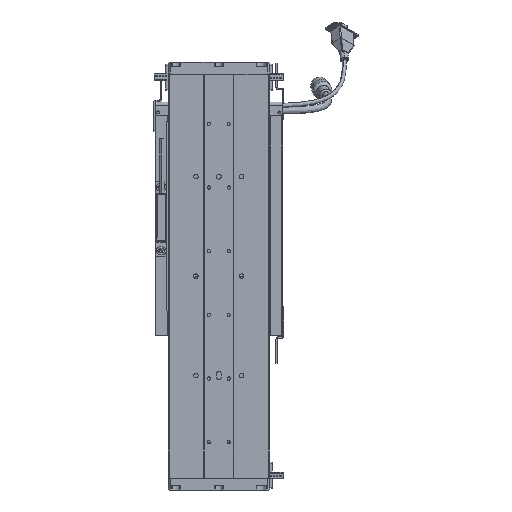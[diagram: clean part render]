
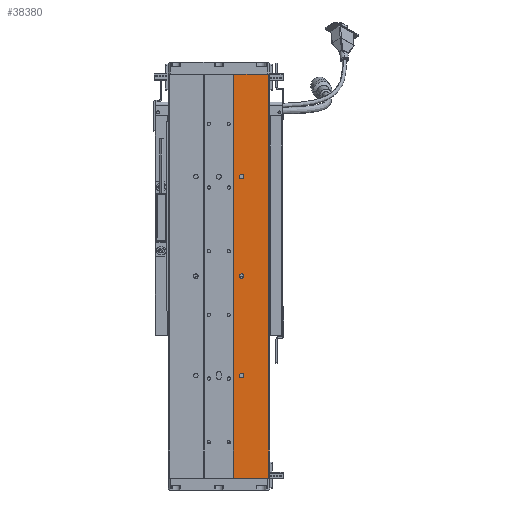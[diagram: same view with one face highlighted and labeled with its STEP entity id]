
A CAD part, front view. The second image highlights one B-rep face of the part: STEP entity #38380.
In plain terms, the highlighted planar face has unit normal (0, -1, 0).
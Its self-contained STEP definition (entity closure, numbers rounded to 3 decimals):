
#855 = CIRCLE ( 'NONE', #46198, 2.25 ) ;
#1206 = ORIENTED_EDGE ( 'NONE', *, *, #26946, .T. ) ;
#1587 = EDGE_CURVE ( 'NONE', #55068, #28080, #17852, .T. ) ;
#2419 = EDGE_LOOP ( 'NONE', ( #20018, #47577, #29631, #10868 ) ) ;
#3554 = ORIENTED_EDGE ( 'NONE', *, *, #40945, .T. ) ;
#3661 = EDGE_CURVE ( 'NONE', #19890, #9333, #855, .T. ) ;
#4666 = AXIS2_PLACEMENT_3D ( 'NONE', #8396, #17588, #7984 ) ;
#4739 = DIRECTION ( 'NONE',  ( 0., 0., 1. ) ) ;
#5291 = VERTEX_POINT ( 'NONE', #59837 ) ;
#5436 = ORIENTED_EDGE ( 'NONE', *, *, #39517, .T. ) ;
#5439 = FACE_BOUND ( 'NONE', #35276, .T. ) ;
#6167 = LINE ( 'NONE', #21259, #22931 ) ;
#6187 = CARTESIAN_POINT ( 'NONE',  ( 50., 0.5, 0. ) ) ;
#6314 = CARTESIAN_POINT ( 'NONE',  ( 50., 0.5, 406. ) ) ;
#7984 = DIRECTION ( 'NONE',  ( 0., 0., 1. ) ) ;
#8346 = CIRCLE ( 'NONE', #40168, 2.25 ) ;
#8396 = CARTESIAN_POINT ( 'NONE',  ( 23., 0.5, 303. ) ) ;
#8671 = ORIENTED_EDGE ( 'NONE', *, *, #23617, .T. ) ;
#8731 = VECTOR ( 'NONE', #17769, 1000. ) ;
#8999 = DIRECTION ( 'NONE',  ( 0., 0., 1. ) ) ;
#9333 = VERTEX_POINT ( 'NONE', #42755 ) ;
#10868 = ORIENTED_EDGE ( 'NONE', *, *, #1587, .T. ) ;
#11392 = DIRECTION ( 'NONE',  ( 0., 0., 1. ) ) ;
#12600 = EDGE_CURVE ( 'NONE', #48263, #28080, #6167, .T. ) ;
#14575 = FACE_BOUND ( 'NONE', #52987, .T. ) ;
#15970 = DIRECTION ( 'NONE',  ( 0., 0., 1. ) ) ;
#16009 = AXIS2_PLACEMENT_3D ( 'NONE', #17105, #30683, #35955 ) ;
#17105 = CARTESIAN_POINT ( 'NONE',  ( 23., 0.5, 103. ) ) ;
#17588 = DIRECTION ( 'NONE',  ( 0., 1., 0. ) ) ;
#17653 = CARTESIAN_POINT ( 'NONE',  ( 23., 0.5, 300.75 ) ) ;
#17769 = DIRECTION ( 'NONE',  ( 0., 0., -1. ) ) ;
#17852 = LINE ( 'NONE', #51002, #8731 ) ;
#19004 = DIRECTION ( 'NONE',  ( 0., 1., 0. ) ) ;
#19423 = CARTESIAN_POINT ( 'NONE',  ( 23., 0.5, 200.75 ) ) ;
#19890 = VERTEX_POINT ( 'NONE', #17653 ) ;
#20018 = ORIENTED_EDGE ( 'NONE', *, *, #12600, .F. ) ;
#21083 = CARTESIAN_POINT ( 'NONE',  ( 23., 0.5, 205.25 ) ) ;
#21259 = CARTESIAN_POINT ( 'NONE',  ( -64.681, 0.5, 0. ) ) ;
#22931 = VECTOR ( 'NONE', #55072, 1000. ) ;
#23617 = EDGE_CURVE ( 'NONE', #9333, #19890, #62534, .T. ) ;
#24175 = CIRCLE ( 'NONE', #49726, 2.25 ) ;
#25021 = DIRECTION ( 'NONE',  ( 0., 1., 0. ) ) ;
#25509 = CARTESIAN_POINT ( 'NONE',  ( 23., 0.5, 105.25 ) ) ;
#26910 = PLANE ( 'NONE',  #29314 ) ;
#26946 = EDGE_CURVE ( 'NONE', #36124, #60415, #8346, .T. ) ;
#27650 = DIRECTION ( 'NONE',  ( 0., 1., 0. ) ) ;
#28080 = VERTEX_POINT ( 'NONE', #33983 ) ;
#28202 = VERTEX_POINT ( 'NONE', #25509 ) ;
#28240 = EDGE_CURVE ( 'NONE', #48263, #42944, #49921, .T. ) ;
#28352 = EDGE_CURVE ( 'NONE', #42944, #55068, #50634, .T. ) ;
#29027 = FACE_OUTER_BOUND ( 'NONE', #2419, .T. ) ;
#29314 = AXIS2_PLACEMENT_3D ( 'NONE', #45973, #60785, #11392 ) ;
#29631 = ORIENTED_EDGE ( 'NONE', *, *, #28352, .T. ) ;
#29996 = CARTESIAN_POINT ( 'NONE',  ( 15., 0.5, 406. ) ) ;
#30683 = DIRECTION ( 'NONE',  ( 0., 1., 0. ) ) ;
#33983 = CARTESIAN_POINT ( 'NONE',  ( 15., 0.5, 0. ) ) ;
#34027 = CARTESIAN_POINT ( 'NONE',  ( 23., 0.5, 103. ) ) ;
#34124 = DIRECTION ( 'NONE',  ( 0., 0., 1. ) ) ;
#35276 = EDGE_LOOP ( 'NONE', ( #8671, #36472 ) ) ;
#35955 = DIRECTION ( 'NONE',  ( 0., 0., 1. ) ) ;
#36124 = VERTEX_POINT ( 'NONE', #21083 ) ;
#36472 = ORIENTED_EDGE ( 'NONE', *, *, #3661, .T. ) ;
#38380 = ADVANCED_FACE ( 'NONE', ( #14575, #5439, #38865, #29027 ), #26910, .F. ) ;
#38865 = FACE_BOUND ( 'NONE', #58043, .T. ) ;
#39517 = EDGE_CURVE ( 'NONE', #60415, #36124, #60684, .T. ) ;
#40168 = AXIS2_PLACEMENT_3D ( 'NONE', #53267, #19004, #8999 ) ;
#40737 = AXIS2_PLACEMENT_3D ( 'NONE', #42872, #27650, #42658 ) ;
#40945 = EDGE_CURVE ( 'NONE', #28202, #5291, #24175, .T. ) ;
#42658 = DIRECTION ( 'NONE',  ( 0., 0., 1. ) ) ;
#42755 = CARTESIAN_POINT ( 'NONE',  ( 23., 0.5, 305.25 ) ) ;
#42872 = CARTESIAN_POINT ( 'NONE',  ( 23., 0.5, 203. ) ) ;
#42944 = VERTEX_POINT ( 'NONE', #6314 ) ;
#44092 = CARTESIAN_POINT ( 'NONE',  ( 23., 0.5, 303. ) ) ;
#45973 = CARTESIAN_POINT ( 'NONE',  ( -64.681, 0.5, 0. ) ) ;
#46198 = AXIS2_PLACEMENT_3D ( 'NONE', #44092, #25021, #34124 ) ;
#46882 = VECTOR ( 'NONE', #15970, 1000. ) ;
#47577 = ORIENTED_EDGE ( 'NONE', *, *, #28240, .T. ) ;
#48263 = VERTEX_POINT ( 'NONE', #56418 ) ;
#48666 = ORIENTED_EDGE ( 'NONE', *, *, #56569, .T. ) ;
#49726 = AXIS2_PLACEMENT_3D ( 'NONE', #34027, #57743, #4739 ) ;
#49921 = LINE ( 'NONE', #6187, #46882 ) ;
#50634 = LINE ( 'NONE', #60638, #53653 ) ;
#51002 = CARTESIAN_POINT ( 'NONE',  ( 15., 0.5, 0. ) ) ;
#52987 = EDGE_LOOP ( 'NONE', ( #3554, #48666 ) ) ;
#53267 = CARTESIAN_POINT ( 'NONE',  ( 23., 0.5, 203. ) ) ;
#53653 = VECTOR ( 'NONE', #55108, 1000. ) ;
#55068 = VERTEX_POINT ( 'NONE', #29996 ) ;
#55072 = DIRECTION ( 'NONE',  ( -1., 0., 0. ) ) ;
#55108 = DIRECTION ( 'NONE',  ( -1., 0., 0. ) ) ;
#56418 = CARTESIAN_POINT ( 'NONE',  ( 50., 0.5, 0. ) ) ;
#56569 = EDGE_CURVE ( 'NONE', #5291, #28202, #59034, .T. ) ;
#57743 = DIRECTION ( 'NONE',  ( 0., 1., 0. ) ) ;
#58043 = EDGE_LOOP ( 'NONE', ( #1206, #5436 ) ) ;
#59034 = CIRCLE ( 'NONE', #16009, 2.25 ) ;
#59837 = CARTESIAN_POINT ( 'NONE',  ( 23., 0.5, 100.75 ) ) ;
#60415 = VERTEX_POINT ( 'NONE', #19423 ) ;
#60638 = CARTESIAN_POINT ( 'NONE',  ( -64.681, 0.5, 406. ) ) ;
#60684 = CIRCLE ( 'NONE', #40737, 2.25 ) ;
#60785 = DIRECTION ( 'NONE',  ( 0., 1., 0. ) ) ;
#62534 = CIRCLE ( 'NONE', #4666, 2.25 ) ;
